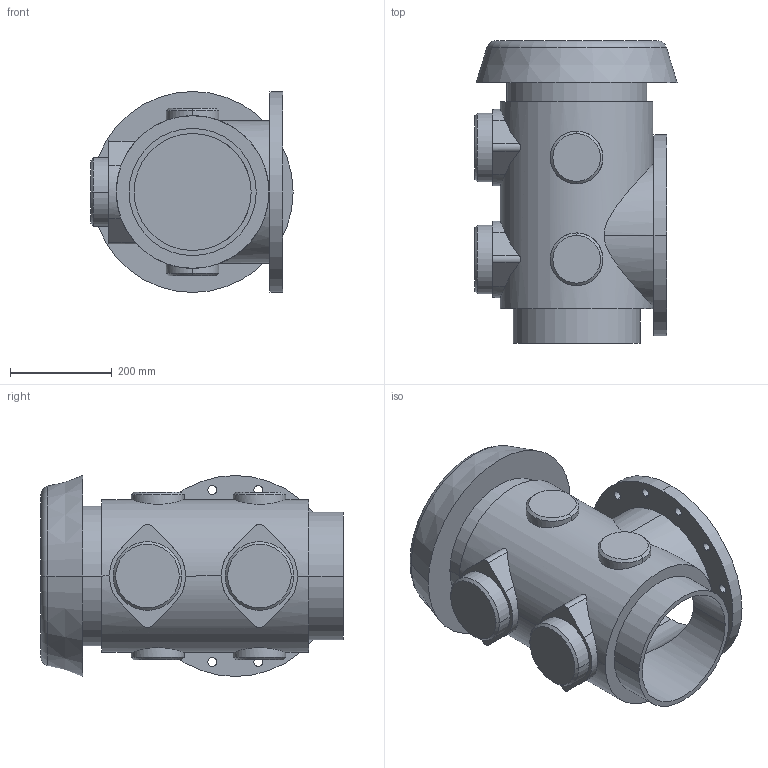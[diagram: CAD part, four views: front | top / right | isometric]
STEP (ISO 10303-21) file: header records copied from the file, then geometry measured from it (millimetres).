
FILE_DESCRIPTION((''),'2;1');
FILE_NAME('712987','2021-08-09T10:31:07',('gm'),('HUBER SE'),'CREO PARAMETRIC BY PTC INC, 2019224','CREO PARAMETRIC BY PTC INC, 2019224','');
FILE_SCHEMA(('AUTOMOTIVE_DESIGN { 1 0 10303 214 1 1 1 1 }'));
Length unit declared in the file: millimetre
Products named in the file (1): 712987
Bounding box: 397.5 x 595 x 395 mm (x, y, z)
Volume: 21259364.2 mm3; surface area: 1476540.1 mm2
Topology: 1 solids, 3 shells, 106 faces, 266 edges, 174 vertices
Faces by surface type: cylinder 62, plane 28, cone 14, torus 2
Entity records: 6439 total; most frequent: CARTESIAN_POINT 1679, DIRECTION 576, ORIENTED_EDGE 524, PRESENTATION_STYLE_ASSIGNMENT 332, STYLED_ITEM 269, CURVE_STYLE 266, EDGE_CURVE 266, AXIS2_PLACEMENT_3D 239
